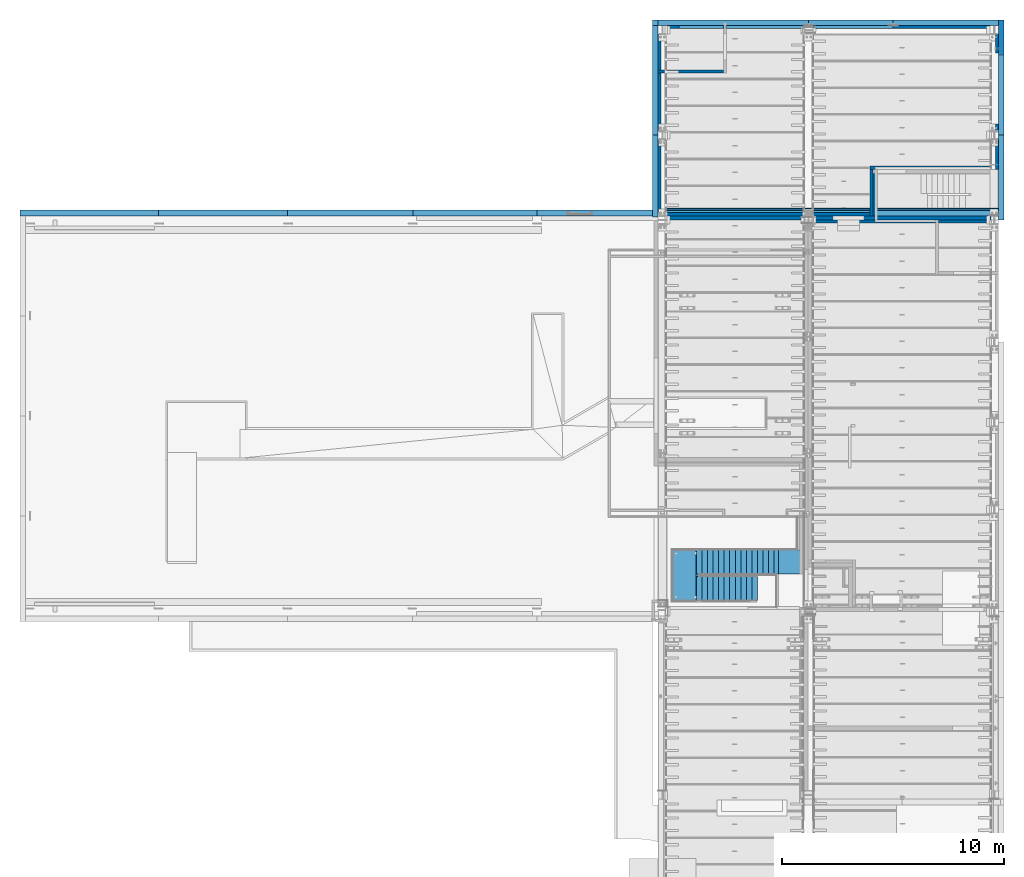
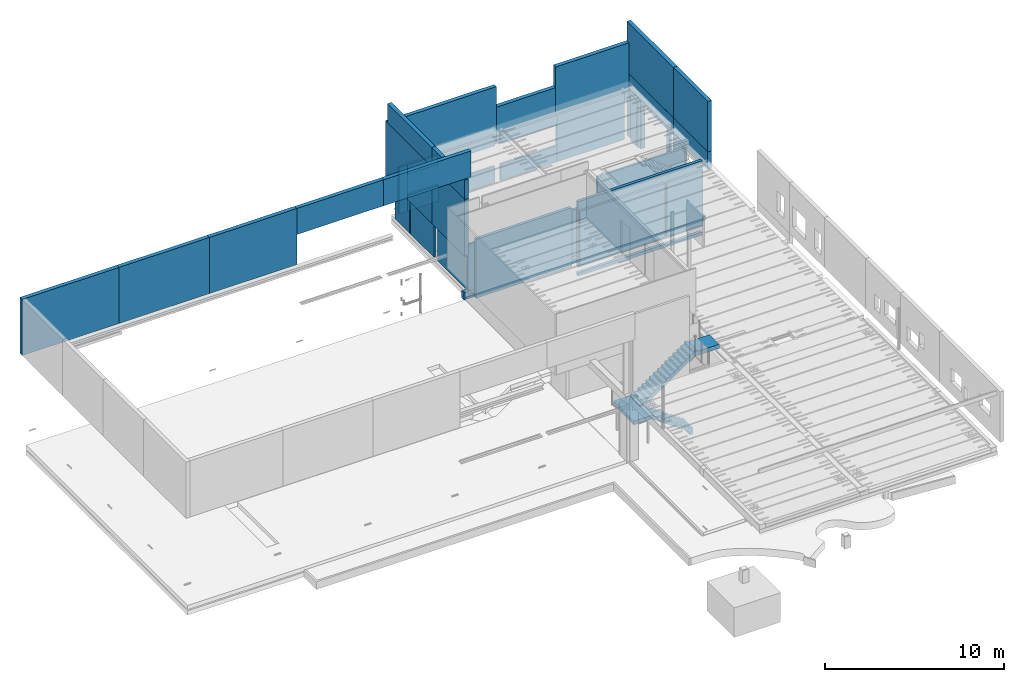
# One storey, part 70 of 230: 43 walls, 1 stair, 1 opening, 1 element without a shape of its own.
"""IFC4X3_ADD2 building model written with IfcOpenShell, lengths in millimetres."""

from ifc_helpers import new_model, si_unit, direction, frame, frame_2d, origin_with_axes, place, context, subcontext, project, spatial, polyline, rectangle, outline, extrude, clip, bounded_halfspace, source, transform, mapped, material, layer, layer_set, type_object, type_shapes, element, aggregate, save


model = new_model("IFC4X3_ADD2")

# Units and contexts
model_context = context("Model", 3, precision=1e-05, world=origin_with_axes(), true_north=direction((0.0, 1.0)))
body_context = subcontext(model_context, "Body", "Model", "MODEL_VIEW")
ifc_project = project(units=[si_unit("LENGTHUNIT", "METRE", prefix="MILLI"), si_unit("AREAUNIT", "SQUARE_METRE"), si_unit("VOLUMEUNIT", "CUBIC_METRE"), si_unit("PLANEANGLEUNIT", "RADIAN"), si_unit("TIMEUNIT", "SECOND"), si_unit("MASSUNIT", "GRAM")], contexts=[model_context])

# Site, building, storey
site_placement = place(None, origin_with_axes())
site = spatial("IfcSite", under=ifc_project, at=site_placement, Name="Site", CompositionType="ELEMENT")
building_placement = place(site_placement, origin_with_axes())
building = spatial("IfcBuilding", under=site, at=building_placement, Name="IFC Building Story")
storey_placement = place(building_placement, origin_with_axes())
storey = spatial("IfcBuildingStorey", under=building, at=storey_placement, Name="ETAGE 00 (0)", Elevation=0.0)

# Walls
ifc_material_1 = material(Name="BS_28_Ossature en béton armé - Eléments préfabriqués(panneau façade)")
ifc_layer_1 = layer(ifc_material_1, 90.0)
ifc_material_2 = material(Name="BS_21_Isolation des murs extérieurs")
ifc_layer_2 = layer(ifc_material_2, 100.0)
ifc_layer_3 = layer(ifc_material_1, 60.0)
ifc_layer_set_1 = layer_set([ifc_layer_1, ifc_layer_2, ifc_layer_3], Name="Mur de base:BS_21_WA_BTpréfab90-ISO100-BTlissépréfab60")
wall_type_1 = type_object("IfcWallType", Name="Mur de base:BS_21_WA_BTpréfab90-ISO100-BTlissépréfab60 250", PredefinedType="NOTDEFINED", material=ifc_layer_set_1)
wall_1_placement = place(storey_placement, origin_with_axes())
element("IfcWall", 1, at=wall_1_placement, inside=storey, type_object=wall_type_1, Name="Mur de base:BS_21_WA_BTpréfab90-ISO100-BTlissépréfab60", ObjectType="Mur de base:BS_21_WA_BTpréfab90-ISO100-BTlissépréfab60", context=body_context, shape_type="SweptSolid", body=[
    extrude(rectangle(XDim=5179.99999997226, YDim=250.0000000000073, at=frame_2d((0.0, 5.95523630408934e-12), x_axis=(0.0, 1.0))), frame((33076.6894781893, 24210.00000001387, 3000.0), z_axis=(0.0, 0.0, 1.0), x_axis=(1.0, 0.0, 0.0)), (0.0, 0.0, 1.0), 3869.0),
])
wall_2_placement = place(storey_placement, origin_with_axes())
element("IfcWall", 2, at=wall_2_placement, inside=storey, type_object=wall_type_1, Name="Mur de base:BS_21_WA_BTpréfab90-ISO100-BTlissépréfab60", ObjectType="Mur de base:BS_21_WA_BTpréfab90-ISO100-BTlissépréfab60", context=body_context, shape_type="SweptSolid", body=[
    extrude(rectangle(XDim=4929.999999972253, YDim=250.0000000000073, at=frame_2d((0.0, 5.95523630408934e-12), x_axis=(0.0, 1.0))), frame((33076.6894781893, 24085.00000001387, 6870.0), z_axis=(0.0, 0.0, 1.0), x_axis=(1.0, 0.0, 0.0)), (0.0, 0.0, 1.0), 1305.0),
])
wall_3_placement = place(storey_placement, origin_with_axes())
element("IfcWall", 3, at=wall_3_placement, inside=storey, type_object=wall_type_1, Name="Mur de base:BS_21_WA_BTpréfab90-ISO100-BTlissépréfab60", ObjectType="Mur de base:BS_21_WA_BTpréfab90-ISO100-BTlissépréfab60", context=body_context, shape_type="SweptSolid", body=[
    extrude(rectangle(XDim=3675.000000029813, YDim=250.0000000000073, at=frame_2d((0.0, 5.95523630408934e-12), x_axis=(0.0, 1.0))), frame((33076.6894781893, 19782.49999998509, 3000.0), z_axis=(0.0, 0.0, 1.0), x_axis=(1.0, 0.0, 0.0)), (0.0, 0.0, 1.0), 3869.0),
])
wall_4_placement = place(storey_placement, origin_with_axes())
element("IfcWall", 4, at=wall_4_placement, inside=storey, type_object=wall_type_1, Name="Mur de base:BS_21_WA_BTpréfab90-ISO100-BTlissépréfab60", ObjectType="Mur de base:BS_21_WA_BTpréfab90-ISO100-BTlissépréfab60", context=body_context, shape_type="SweptSolid", body=[
    extrude(rectangle(XDim=3675.000000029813, YDim=250.0000000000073, at=frame_2d((0.0, 5.95523630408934e-12), x_axis=(0.0, 1.0))), frame((33076.68947818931, 19782.49999998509, 6870.0), z_axis=(0.0, 0.0, 1.0), x_axis=(1.0, 0.0, 0.0)), (0.0, 0.0, 1.0), 1305.0),
])
wall_5_placement = place(storey_placement, origin_with_axes())
element("IfcWall", 5, at=wall_5_placement, inside=storey, type_object=wall_type_1, Name="Mur de base:BS_21_WA_BTpréfab90-ISO100-BTlissépréfab60", ObjectType="Mur de base:BS_21_WA_BTpréfab90-ISO100-BTlissépréfab60", context=body_context, shape_type="SweptSolid", body=[
    extrude(rectangle(XDim=5649.999999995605, YDim=250.0, at=frame_2d((0.0, 5.95523630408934e-12), x_axis=(1.0, 0.0))), frame((30576.6894781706, 18125.0000000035, 8220.0), z_axis=(0.0, 0.0, 1.0), x_axis=(1.0, 0.0, 0.0)), (0.0, 0.0, 1.0), 1770.0),
])
wall_6_placement = place(storey_placement, origin_with_axes())
element("IfcWall", 6, at=wall_6_placement, inside=storey, type_object=wall_type_1, Name="Mur de base:BS_21_WA_BTpréfab90-ISO100-BTlissépréfab60", ObjectType="Mur de base:BS_21_WA_BTpréfab90-ISO100-BTlissépréfab60", context=body_context, shape_type="SweptSolid", body=[
    extrude(rectangle(XDim=6235.4999999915, YDim=250.0, at=frame_2d((0.0, 5.95523630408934e-12), x_axis=(1.0, 0.0))), frame((7633.939478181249, 18125.0000000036, 6166.0), z_axis=(0.0, 0.0, 1.0), x_axis=(1.0, 0.0, 0.0)), (0.0, 0.0, 1.0), 3824.0),
])
wall_7_placement = place(storey_placement, origin_with_axes())
element("IfcWall", 7, at=wall_7_placement, inside=storey, type_object=wall_type_1, Name="Mur de base:BS_21_WA_BTpréfab90-ISO100-BTlissépréfab60", ObjectType="Mur de base:BS_21_WA_BTpréfab90-ISO100-BTlissépréfab60", context=body_context, shape_type="SweptSolid", body=[
    extrude(rectangle(XDim=5800.000000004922, YDim=249.9999999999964, at=frame_2d((0.0, 5.95523630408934e-12), x_axis=(1.0, 0.0))), frame((13651.68947817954, 18125.0000000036, 6166.0), z_axis=(0.0, 0.0, 1.0), x_axis=(1.0, 0.0, 0.0)), (0.0, 0.0, 1.0), 3824.0),
])
wall_8_placement = place(storey_placement, origin_with_axes())
element("IfcWall", 8, at=wall_8_placement, inside=storey, type_object=wall_type_1, Name="Mur de base:BS_21_WA_BTpréfab90-ISO100-BTlissépréfab60", ObjectType="Mur de base:BS_21_WA_BTpréfab90-ISO100-BTlissépréfab60", context=body_context, shape_type="SweptSolid", body=[
    extrude(rectangle(XDim=5624.999999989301, YDim=249.9999999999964, at=frame_2d((0.0, 5.95523630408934e-12), x_axis=(1.0, 0.0))), frame((19364.18947817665, 18125.0000000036, 6166.0), z_axis=(0.0, 0.0, 1.0), x_axis=(1.0, 0.0, 0.0)), (0.0, 0.0, 1.0), 3824.0),
])
wall_9_placement = place(storey_placement, origin_with_axes())
element("IfcWall", 9, at=wall_9_placement, inside=storey, type_object=wall_type_1, Name="Mur de base:BS_21_WA_BTpréfab90-ISO100-BTlissépréfab60", ObjectType="Mur de base:BS_21_WA_BTpréfab90-ISO100-BTlissépréfab60", context=body_context, shape_type="SweptSolid", body=[
    extrude(rectangle(XDim=5575.000000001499, YDim=250.0, at=frame_2d((0.0, 5.95523630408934e-12), x_axis=(1.0, 0.0))), frame((24964.18947817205, 18125.0000000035, 8220.0), z_axis=(0.0, 0.0, 1.0), x_axis=(1.0, 0.0, 0.0)), (0.0, 0.0, 1.0), 1770.0),
])

# Wall, opening
wall_10_placement = place(storey_placement, origin_with_axes())
wall_10 = element("IfcWall", 10, at=wall_10_placement, inside=storey, type_object=wall_type_1, Name="Mur de base:BS_21_WA_BTpréfab90-ISO100-BTlissépréfab60", ObjectType="Mur de base:BS_21_WA_BTpréfab90-ISO100-BTlissépréfab60", context=body_context, shape_type="SweptSolid", body=[
    extrude(rectangle(XDim=3805.000000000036, YDim=250.0000000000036, at=frame_2d((0.0, 5.95523630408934e-12), x_axis=(1.0, 0.0))), frame((41864.18947816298, 26675.0000000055, 3000.0), z_axis=(0.0, 0.0, 1.0), x_axis=(1.0, 0.0, 0.0)), (0.0, 0.0, 1.0), 2470.0),
])
opening_placement = place(wall_10_placement, frame((40851.689478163, 26550.0000000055, 5470.0), z_axis=(0.0, 1.0, 0.0), x_axis=(1.0, 0.0, 0.0)))
element("IfcOpeningElement", 11, at=opening_placement, cuts=wall_10, ObjectType="Opening", context=body_context, shape_type="SweptSolid", body=[
    extrude(outline(polyline([(-6710.0, 125.0), (6710.0, 125.0), (6710.0, -125.0), (-6710.0, -125.0), (-6710.0, 125.0)])), frame((0.0, -1400.0, 124.999999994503), z_axis=(0.0, 1.0, 0.0), x_axis=(1.0, 0.0, 0.0)), (0.0, 0.0, 1.0), 1400.0),
])

# Walls
wall_11_placement = place(storey_placement, origin_with_axes())
element("IfcWall", 12, at=wall_11_placement, inside=storey, type_object=wall_type_1, Name="Mur de base:BS_21_WA_BTpréfab90-ISO100-BTlissépréfab60", ObjectType="Mur de base:BS_21_WA_BTpréfab90-ISO100-BTlissépréfab60", context=body_context, shape_type="SweptSolid", body=[
    extrude(rectangle(XDim=3820.000000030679, YDim=249.9999999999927, at=frame_2d((0.0, 5.95523630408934e-12), x_axis=(0.0, 1.0))), frame((48626.68947815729, 19710.00000001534, 3545.0), z_axis=(0.0, 0.0, 1.0), x_axis=(1.0, 0.0, 0.0)), (0.0, 0.0, 1.0), 1199.0),
])
wall_12_placement = place(storey_placement, origin_with_axes())
element("IfcWall", 13, at=wall_12_placement, inside=storey, type_object=wall_type_1, Name="Mur de base:BS_21_WA_BTpréfab90-ISO100-BTlissépréfab60", ObjectType="Mur de base:BS_21_WA_BTpréfab90-ISO100-BTlissépréfab60", context=body_context, shape_type="SweptSolid", body=[
    extrude(rectangle(XDim=3820.000000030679, YDim=249.9999999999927, at=frame_2d((0.0, 5.95523630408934e-12), x_axis=(0.0, 1.0))), frame((48626.68947815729, 19710.00000001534, 4745.0), z_axis=(0.0, 0.0, 1.0), x_axis=(1.0, 0.0, 0.0)), (0.0, 0.0, 1.0), 3430.0),
])
wall_13_placement = place(storey_placement, origin_with_axes())
element("IfcWall", 14, at=wall_13_placement, inside=storey, type_object=wall_type_1, Name="Mur de base:BS_21_WA_BTpréfab90-ISO100-BTlissépréfab60", ObjectType="Mur de base:BS_21_WA_BTpréfab90-ISO100-BTlissépréfab60", context=body_context, shape_type="SweptSolid", body=[
    extrude(rectangle(XDim=1569.999999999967, YDim=250.0000000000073, at=frame_2d((0.0, 5.95523630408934e-12), x_axis=(0.0, 1.0))), frame((48626.68947815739, 26014.99999999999, 431.0), z_axis=(0.0, 0.0, 1.0), x_axis=(1.0, 0.0, 0.0)), (0.0, 0.0, 1.0), 3113.0),
])
wall_14_placement = place(storey_placement, origin_with_axes())
element("IfcWall", 15, at=wall_14_placement, inside=storey, type_object=wall_type_1, Name="Mur de base:BS_21_WA_BTpréfab90-ISO100-BTlissépréfab60", ObjectType="Mur de base:BS_21_WA_BTpréfab90-ISO100-BTlissépréfab60", context=body_context, shape_type="SweptSolid", body=[
    extrude(rectangle(XDim=5179.999999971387, YDim=249.9999999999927, at=frame_2d((0.0, 5.95523630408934e-12), x_axis=(0.0, 1.0))), frame((48626.68947815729, 24209.99999998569, 4745.0), z_axis=(0.0, 0.0, 1.0), x_axis=(1.0, 0.0, 0.0)), (0.0, 0.0, 1.0), 3430.0),
])
wall_15_placement = place(storey_placement, origin_with_axes())
element("IfcWall", 16, at=wall_15_placement, inside=storey, type_object=wall_type_1, Name="Mur de base:BS_21_WA_BTpréfab90-ISO100-BTlissépréfab60", ObjectType="Mur de base:BS_21_WA_BTpréfab90-ISO100-BTlissépréfab60", context=body_context, shape_type="SweptSolid", body=[
    extrude(rectangle(XDim=5179.999999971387, YDim=250.0, at=frame_2d((0.0, 5.95523630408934e-12), x_axis=(0.0, 1.0))), frame((48626.6894781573, 24209.99999998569, 3545.0), z_axis=(0.0, 0.0, 1.0), x_axis=(1.0, 0.0, 0.0)), (0.0, 0.0, 1.0), 1199.0),
])
wall_16_placement = place(storey_placement, origin_with_axes())
element("IfcWall", 17, at=wall_16_placement, inside=storey, type_object=wall_type_1, Name="Mur de base:BS_21_WA_BTpréfab90-ISO100-BTlissépréfab60", ObjectType="Mur de base:BS_21_WA_BTpréfab90-ISO100-BTlissépréfab60", context=body_context, shape_type="SweptSolid", body=[
    extrude(rectangle(XDim=4734.999999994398, YDim=250.0000000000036, at=frame_2d((0.0, 5.95523630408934e-12), x_axis=(1.0, 0.0))), frame((46134.18947816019, 26675.0000000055, 3000.0), z_axis=(0.0, 0.0, 1.0), x_axis=(1.0, 0.0, 0.0)), (0.0, 0.0, 1.0), 3869.0),
])
wall_17_placement = place(storey_placement, origin_with_axes())
element("IfcWall", 18, at=wall_17_placement, inside=storey, type_object=wall_type_1, Name="Mur de base:BS_21_WA_BTpréfab90-ISO100-BTlissépréfab60", ObjectType="Mur de base:BS_21_WA_BTpréfab90-ISO100-BTlissépréfab60", context=body_context, shape_type="SweptSolid", body=[
    extrude(rectangle(XDim=6759.999999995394, YDim=250.0000000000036, at=frame_2d((0.0, 5.95523630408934e-12), x_axis=(1.0, 0.0))), frame((36581.68947816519, 26675.0000000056, 3000.0), z_axis=(0.0, 0.0, 1.0), x_axis=(1.0, 0.0, 0.0)), (0.0, 0.0, 1.0), 3869.0),
])
ifc_material_3 = material(Name="BS_28_Ossature en béton armé - Eléments coulé sur place")
wall_type_2 = type_object("IfcWallType", Name="Mur de base:BS_28_WA_BTcoulé250", PredefinedType="NOTDEFINED", material=ifc_material_3)
wall_18_placement = place(storey_placement, origin_with_axes())
element("IfcWall", 19, at=wall_18_placement, inside=storey, type_object=wall_type_2, Name="Mur de base:BS_28_WA_BTcoulé250", ObjectType="Mur de base:BS_28_WA_BTcoulé250", context=body_context, shape_type="Clipping", body=[
    clip(extrude(outline(polyline([(-7787.499999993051, 125.0), (7787.499999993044, 125.0), (7787.499999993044, -125.0), (-7787.499999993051, -125.0), (-7787.499999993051, 125.0)])), frame((40714.18947816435, 18125.0000000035, 0.0), z_axis=(0.0, 0.0, 1.0), x_axis=(1.0, 0.0, 0.0)), (0.0, 0.0, 1.0), 500.0), bounded_halfspace(frame((0.0, 0.0, 300.0), z_axis=(0.0, 0.0, 1.0), x_axis=(1.0, 0.0, 0.0)), False, frame((40714.18947816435, 18125.0000000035, 0.0), z_axis=(0.0, 0.0, 1.0), x_axis=(1.0, 0.0, 0.0)), polyline([(7787.499999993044, 125.0), (-7512.499999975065, 125.0), (-7512.499999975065, -125.0), (7787.499999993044, -125.0), (7787.499999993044, 125.0)]))),
])
ifc_material_4 = material(Name="BS_13_Isolation sur sols XPS")
wall_type_3 = type_object("IfcWallType", Name="Mur de base:BS_13_WA_XPS80", PredefinedType="NOTDEFINED", material=ifc_material_4)
wall_19_placement = place(storey_placement, origin_with_axes())
element("IfcWall", 20, at=wall_19_placement, inside=storey, type_object=wall_type_3, Name="Mur de base:BS_13_WA_XPS80", ObjectType="Mur de base:BS_13_WA_XPS80", context=body_context, shape_type="SweptSolid", body=[
    extrude(rectangle(XDim=15299.9999999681, YDim=80.0, at=frame_2d((0.0, 5.95523630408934e-12), x_axis=(1.0, 0.0))), frame((40851.68947817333, 18290.0, -200.0), z_axis=(0.0, 0.0, 1.0), x_axis=(1.0, 0.0, 0.0)), (0.0, 0.0, 1.0), 120.0),
])
ifc_material_5 = material(Name="BS_22_Maçonnerie intérieure - Type4 -  en béton")
wall_type_4 = type_object("IfcWallType", Name="Mur de base_BS_22_WA_BBTlourd190_1", PredefinedType="NOTDEFINED")
shared_shape_1 = source(origin_with_axes(), body_context, "Body", "SweptSolid", [
    extrude(rectangle(XDim=8001.49652183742, YDim=190.0, at=frame_2d((0.0, 5.95523630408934e-12), x_axis=(1.0, 0.0))), frame((4000.748260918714, 0.0, 0.0), z_axis=(0.0, 0.0, 1.0), x_axis=(1.0, 0.0, 0.0)), (0.0, 0.0, 1.0), 220.0),
    extrude(rectangle(XDim=8001.49652183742, YDim=190.0, at=frame_2d((0.0, 5.95523630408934e-12), x_axis=(1.0, 0.0))), frame((4000.748260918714, 0.0, 600.0), z_axis=(0.0, 0.0, 1.0), x_axis=(1.0, 0.0, 0.0)), (0.0, 0.0, 1.0), 4470.0),
])
type_shapes(wall_type_4, [shared_shape_1])
wall_20_placement = place(storey_placement, frame((40161.6894781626, 17905.0000000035, -800.0), z_axis=(0.0, 0.0, 1.0), x_axis=(1.0, 0.0, 0.0)))
element("IfcWall", 21, at=wall_20_placement, inside=storey, type_object=wall_type_4, material=ifc_material_5, Name="Mur de base:BS_22_WA_BBTlourd190", ObjectType="Mur de base:BS_22_WA_BBTlourd190", context=body_context, shape_type="MappedRepresentation", body=[
    mapped(shared_shape_1, transform((0.0, 0.0, 0.0))),
])
wall_type_5 = type_object("IfcWallType", Name="Mur de base:BS_22_WA_BBTlourd190", PredefinedType="NOTDEFINED", material=ifc_material_5)
wall_21_placement = place(storey_placement, origin_with_axes())
element("IfcWall", 22, at=wall_21_placement, inside=storey, type_object=wall_type_5, Name="Mur de base:BS_22_WA_BBTlourd190", ObjectType="Mur de base:BS_22_WA_BBTlourd190", context=body_context, shape_type="SweptSolid", body=[
    extrude(rectangle(XDim=1900.00000001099, YDim=189.9999999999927, at=frame_2d((0.0, 5.95523630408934e-12), x_axis=(0.0, 1.0))), frame((42956.6894781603, 18949.99999999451, 500.0), z_axis=(0.0, 0.0, 1.0), x_axis=(1.0, 0.0, 0.0)), (0.0, 0.0, 1.0), 3500.0),
])
wall_22_placement = place(storey_placement, origin_with_axes())
element("IfcWall", 23, at=wall_22_placement, inside=storey, type_object=wall_type_5, Name="Mur de base:BS_22_WA_BBTlourd190", ObjectType="Mur de base:BS_22_WA_BBTlourd190", context=body_context, shape_type="SweptSolid", body=[
    extrude(rectangle(XDim=6159.999999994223, YDim=190.0, at=frame_2d((0.0, 5.95523630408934e-12), x_axis=(1.0, 0.0))), frame((36681.68947816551, 17905.0000000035, 0.0), z_axis=(0.0, 0.0, 1.0), x_axis=(1.0, 0.0, 0.0)), (0.0, 0.0, 1.0), 4000.0),
])
ifc_material_6 = material(Name="BS_42_Revêtement mural en plaques - type A (gyproc)")
ifc_layer_4 = layer(ifc_material_6, 12.5)
ifc_material_7 = material(Name="BS_42_Panneau OSB")
ifc_layer_5 = layer(ifc_material_7, 18.0)
ifc_material_8 = material(Name="BS_42_ContreCloison-Laine minérale")
ifc_layer_6 = layer(ifc_material_8, 75.0)
ifc_layer_7 = layer(ifc_material_7, 18.0)
ifc_layer_8 = layer(ifc_material_6, 12.5)
ifc_layer_set_2 = layer_set([ifc_layer_4, ifc_layer_5, ifc_layer_6, ifc_layer_7, ifc_layer_8], Name="Mur de base:BS_22_WA_C1")
wall_type_6 = type_object("IfcWallType", Name="Mur de base:BS_22_WA_C1 136", PredefinedType="NOTDEFINED", material=ifc_layer_set_2)
wall_23_placement = place(storey_placement, origin_with_axes())
element("IfcWall", 24, at=wall_23_placement, inside=storey, type_object=wall_type_6, Name="Mur de base:BS_22_WA_C1", ObjectType="Mur de base:BS_22_WA_C1", context=body_context, shape_type="SweptSolid", body=[
    extrude(rectangle(XDim=2929.500000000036, YDim=136.0, at=frame_2d((0.0, 5.95523630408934e-12), x_axis=(1.0, 0.0))), frame((34666.43947818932, 24482.5000000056, 500.0), z_axis=(0.0, 0.0, 1.0), x_axis=(1.0, 0.0, 0.0)), (0.0, 0.0, 1.0), 3500.0),
])
ifc_material_9 = material(Name="BS_00_Vide d'air")
ifc_layer_9 = layer(ifc_material_9, 10.0)
ifc_layer_10 = layer(ifc_material_8, 100.0)
ifc_layer_11 = layer(ifc_material_7, 18.0)
ifc_layer_12 = layer(ifc_material_6, 12.5)
ifc_layer_set_3 = layer_set([ifc_layer_9, ifc_layer_10, ifc_layer_11, ifc_layer_12], Name="Mur de base:BS_22_WA_ContreCloison acoustique")
wall_type_7 = type_object("IfcWallType", Name="Mur de base:BS_22_WA_ContreCloison acoustique 140.5", PredefinedType="NOTDEFINED", material=ifc_layer_set_3)
wall_24_placement = place(storey_placement, origin_with_axes())
element("IfcWall", 25, at=wall_24_placement, inside=storey, type_object=wall_type_7, Name="Mur de base:BS_22_WA_ContreCloison acoustique", ObjectType="Mur de base:BS_22_WA_ContreCloison acoustique", context=body_context, shape_type="SweptSolid", body=[
    extrude(rectangle(XDim=3608.502504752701, YDim=140.5, at=frame_2d((0.0, 5.95523630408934e-12), x_axis=(1.0, 0.0))), frame((41965.43997307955, 26479.7500000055, 500.0), z_axis=(0.0, 0.0, 1.0), x_axis=(1.0, 0.0, 0.0)), (0.0, 0.0, 1.0), 1100.0),
])
wall_25_placement = place(storey_placement, origin_with_axes())
element("IfcWall", 26, at=wall_25_placement, inside=storey, type_object=wall_type_7, Name="Mur de base:BS_22_WA_ContreCloison acoustique", ObjectType="Mur de base:BS_22_WA_ContreCloison acoustique", context=body_context, shape_type="SweptSolid", body=[
    extrude(rectangle(XDim=4346.497647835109, YDim=140.4999999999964, at=frame_2d((0.0, 5.95523630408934e-12), x_axis=(1.0, 0.0))), frame((45942.94004937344, 26479.7500000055, 500.0), z_axis=(0.0, 0.0, 1.0), x_axis=(1.0, 0.0, 0.0)), (0.0, 0.0, 1.0), 3175.0),
])
wall_26_placement = place(storey_placement, origin_with_axes())
element("IfcWall", 27, at=wall_26_placement, inside=storey, type_object=wall_type_7, Name="Mur de base:BS_22_WA_ContreCloison acoustique", ObjectType="Mur de base:BS_22_WA_ContreCloison acoustique", context=body_context, shape_type="SweptSolid", body=[
    extrude(rectangle(XDim=646.7353678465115, YDim=140.4999999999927, at=frame_2d((0.0, 5.95523630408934e-12), x_axis=(0.0, 1.0))), frame((48431.4394781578, 25836.63127847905, 500.0), z_axis=(0.0, 0.0, 1.0), x_axis=(1.0, 0.0, 0.0)), (0.0, 0.0, 1.0), 3175.0),
])
wall_27_placement = place(storey_placement, origin_with_axes())
element("IfcWall", 28, at=wall_27_placement, inside=storey, type_object=wall_type_7, Name="Mur de base:BS_22_WA_ContreCloison acoustique", ObjectType="Mur de base:BS_22_WA_ContreCloison acoustique", context=body_context, shape_type="SweptSolid", body=[
    extrude(rectangle(XDim=197.7635945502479, YDim=140.4999999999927, at=frame_2d((0.0, 5.95523630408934e-12), x_axis=(0.0, 1.0))), frame((48431.4394781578, 25408.88179728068, 500.0), z_axis=(0.0, 0.0, 1.0), x_axis=(1.0, 0.0, 0.0)), (0.0, 0.0, 1.0), 3175.0),
])
wall_28_placement = place(storey_placement, origin_with_axes())
element("IfcWall", 29, at=wall_28_placement, inside=storey, type_object=wall_type_7, Name="Mur de base:BS_22_WA_ContreCloison acoustique", ObjectType="Mur de base:BS_22_WA_ContreCloison acoustique", context=body_context, shape_type="SweptSolid", body=[
    extrude(rectangle(XDim=3608.502504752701, YDim=140.5, at=frame_2d((0.0, 5.95523630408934e-12), x_axis=(1.0, 0.0))), frame((41965.43997307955, 26479.7500000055, 3000.0), z_axis=(0.0, 0.0, 1.0), x_axis=(1.0, 0.0, 0.0)), (0.0, 0.0, 1.0), 675.0),
])
wall_29_placement = place(storey_placement, origin_with_axes())
element("IfcWall", 30, at=wall_29_placement, inside=storey, type_object=wall_type_7, Name="Mur de base:BS_22_WA_ContreCloison acoustique", ObjectType="Mur de base:BS_22_WA_ContreCloison acoustique", context=body_context, shape_type="SweptSolid", body=[
    extrude(rectangle(XDim=315.000389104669, YDim=140.4999999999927, at=frame_2d((0.0, 5.95523630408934e-12), x_axis=(0.0, 1.0))), frame((48431.4394781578, 21972.49980544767, 500.0), z_axis=(0.0, 0.0, 1.0), x_axis=(1.0, 0.0, 0.0)), (0.0, 0.0, 1.0), 3175.0),
])
wall_30_placement = place(storey_placement, origin_with_axes())
element("IfcWall", 31, at=wall_30_placement, inside=storey, type_object=wall_type_7, Name="Mur de base:BS_22_WA_ContreCloison acoustique", ObjectType="Mur de base:BS_22_WA_ContreCloison acoustique", context=body_context, shape_type="SweptSolid", body=[
    extrude(rectangle(XDim=1334.999610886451, YDim=140.4999999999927, at=frame_2d((0.0, 5.95523630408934e-12), x_axis=(0.0, 1.0))), frame((48431.43947815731, 20757.49980545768, 500.0), z_axis=(0.0, 0.0, 1.0), x_axis=(1.0, 0.0, 0.0)), (0.0, 0.0, 1.0), 3175.0),
])
wall_31_placement = place(storey_placement, origin_with_axes())
element("IfcWall", 32, at=wall_31_placement, inside=storey, type_object=wall_type_7, Name="Mur de base:BS_22_WA_ContreCloison acoustique", ObjectType="Mur de base:BS_22_WA_ContreCloison acoustique", context=body_context, shape_type="SweptSolid", body=[
    extrude(rectangle(XDim=5639.99999999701, YDim=140.5, at=frame_2d((0.0, 5.95523630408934e-12), x_axis=(1.0, 0.0))), frame((45541.18947815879, 20160.2500000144, 500.0), z_axis=(0.0, 0.0, 1.0), x_axis=(1.0, 0.0, 0.0)), (0.0, 0.0, 1.0), 3175.0),
])
wall_32_placement = place(storey_placement, origin_with_axes())
element("IfcWall", 33, at=wall_32_placement, inside=storey, type_object=wall_type_7, Name="Mur de base:BS_22_WA_ContreCloison acoustique", ObjectType="Mur de base:BS_22_WA_ContreCloison acoustique", context=body_context, shape_type="SweptSolid", body=[
    extrude(rectangle(XDim=2090.000000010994, YDim=140.4999999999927, at=frame_2d((0.0, 5.95523630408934e-12), x_axis=(0.0, 1.0))), frame((42791.4394781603, 19044.99999999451, 500.0), z_axis=(0.0, 0.0, 1.0), x_axis=(1.0, 0.0, 0.0)), (0.0, 0.0, 1.0), 3175.0),
])
wall_33_placement = place(storey_placement, origin_with_axes())
element("IfcWall", 34, at=wall_33_placement, inside=storey, type_object=wall_type_7, Name="Mur de base:BS_22_WA_ContreCloison acoustique", ObjectType="Mur de base:BS_22_WA_ContreCloison acoustique", context=body_context, shape_type="SweptSolid", body=[
    extrude(rectangle(XDim=9519.4999999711, YDim=140.5000000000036, at=frame_2d((0.0, 5.95523630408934e-12), x_axis=(1.0, 0.0))), frame((37961.43947817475, 18070.2500000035, 500.0), z_axis=(0.0, 0.0, 1.0), x_axis=(1.0, 0.0, 0.0)), (0.0, 0.0, 1.0), 3175.0),
])
wall_34_placement = place(storey_placement, origin_with_axes())
element("IfcWall", 35, at=wall_34_placement, inside=storey, type_object=wall_type_7, Name="Mur de base:BS_22_WA_ContreCloison acoustique", ObjectType="Mur de base:BS_22_WA_ContreCloison acoustique", context=body_context, shape_type="SweptSolid", body=[
    extrude(rectangle(XDim=3284.49961089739, YDim=140.5000000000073, at=frame_2d((0.0, 5.95523630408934e-12), x_axis=(0.0, 1.0))), frame((33271.9394781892, 19782.74980545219, 500.0), z_axis=(0.0, 0.0, 1.0), x_axis=(1.0, 0.0, 0.0)), (0.0, 0.0, 1.0), 3175.0),
])
wall_35_placement = place(storey_placement, origin_with_axes())
element("IfcWall", 36, at=wall_35_placement, inside=storey, type_object=wall_type_7, Name="Mur de base:BS_22_WA_ContreCloison acoustique", ObjectType="Mur de base:BS_22_WA_ContreCloison acoustique", context=body_context, shape_type="SweptSolid", body=[
    extrude(rectangle(XDim=2599.50038910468, YDim=140.5000000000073, at=frame_2d((0.0, 5.95523630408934e-12), x_axis=(0.0, 1.0))), frame((33271.9394781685, 23114.74980545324, 500.0), z_axis=(0.0, 0.0, 1.0), x_axis=(1.0, 0.0, 0.0)), (0.0, 0.0, 1.0), 3175.0),
])
wall_36_placement = place(storey_placement, origin_with_axes())
element("IfcWall", 37, at=wall_36_placement, inside=storey, type_object=wall_type_7, Name="Mur de base:BS_22_WA_ContreCloison acoustique", ObjectType="Mur de base:BS_22_WA_ContreCloison acoustique", context=body_context, shape_type="SweptSolid", body=[
    extrude(rectangle(XDim=5465.000478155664, YDim=140.5, at=frame_2d((0.0, 5.95523630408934e-12), x_axis=(1.0, 0.0))), frame((42943.68923907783, 17739.7500000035, 0.0), z_axis=(0.0, 0.0, 1.0), x_axis=(1.0, 0.0, 0.0)), (0.0, 0.0, 1.0), 3675.0),
])
wall_37_placement = place(storey_placement, origin_with_axes())
element("IfcWall", 38, at=wall_37_placement, inside=storey, type_object=wall_type_7, Name="Mur de base:BS_22_WA_ContreCloison acoustique", ObjectType="Mur de base:BS_22_WA_ContreCloison acoustique", context=body_context, shape_type="SweptSolid", body=[
    extrude(rectangle(XDim=2303.999158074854, YDim=140.5, at=frame_2d((0.0, 5.95523630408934e-12), x_axis=(1.0, 0.0))), frame((46964.18905719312, 17739.7500000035, 0.0), z_axis=(0.0, 0.0, 1.0), x_axis=(1.0, 0.0, 0.0)), (0.0, 0.0, 1.0), 3675.0),
])
wall_38_placement = place(storey_placement, origin_with_axes())
element("IfcWall", 39, at=wall_38_placement, inside=storey, type_object=wall_type_7, Name="Mur de base:BS_22_WA_ContreCloison acoustique", ObjectType="Mur de base:BS_22_WA_ContreCloison acoustique", context=body_context, shape_type="SweptSolid", body=[
    extrude(rectangle(XDim=3534.499242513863, YDim=140.5, at=frame_2d((0.0, 5.95523630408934e-12), x_axis=(1.0, 0.0))), frame((38003.93909944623, 26479.7500000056, 500.0), z_axis=(0.0, 0.0, 1.0), x_axis=(1.0, 0.0, 0.0)), (0.0, 0.0, 1.0), 1100.0),
])
wall_39_placement = place(storey_placement, origin_with_axes())
element("IfcWall", 40, at=wall_39_placement, inside=storey, type_object=wall_type_7, Name="Mur de base:BS_22_WA_ContreCloison acoustique", ObjectType="Mur de base:BS_22_WA_ContreCloison acoustique", context=body_context, shape_type="SweptSolid", body=[
    extrude(rectangle(XDim=3503.999242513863, YDim=140.5, at=frame_2d((0.0, 5.95523630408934e-12), x_axis=(1.0, 0.0))), frame((38019.18909944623, 26479.7500000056, 3000.0), z_axis=(0.0, 0.0, 1.0), x_axis=(1.0, 0.0, 0.0)), (0.0, 0.0, 1.0), 675.0),
])
wall_40_placement = place(storey_placement, origin_with_axes())
element("IfcWall", 41, at=wall_40_placement, inside=storey, type_object=wall_type_7, Name="Mur de base:BS_22_WA_ContreCloison acoustique", ObjectType="Mur de base:BS_22_WA_ContreCloison acoustique", context=body_context, shape_type="SweptSolid", body=[
    extrude(rectangle(XDim=545.5011307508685, YDim=140.5000000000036, at=frame_2d((0.0, 5.95523630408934e-12), x_axis=(1.0, 0.0))), frame((33868.93891278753, 26479.7500000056, 500.0), z_axis=(0.0, 0.0, 1.0), x_axis=(1.0, 0.0, 0.0)), (0.0, 0.0, 1.0), 3175.0),
])
wall_41_placement = place(storey_placement, origin_with_axes())
element("IfcWall", 42, at=wall_41_placement, inside=storey, type_object=wall_type_7, Name="Mur de base:BS_22_WA_ContreCloison acoustique", ObjectType="Mur de base:BS_22_WA_ContreCloison acoustique", context=body_context, shape_type="SweptSolid", body=[
    extrude(rectangle(XDim=1609.498962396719, YDim=140.5, at=frame_2d((0.0, 5.95523630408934e-12), x_axis=(0.0, 1.0))), frame((33271.9394781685, 25355.24948120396, 500.0), z_axis=(0.0, 0.0, 1.0), x_axis=(1.0, 0.0, 0.0)), (0.0, 0.0, 1.0), 3175.0),
])
wall_42_placement = place(storey_placement, origin_with_axes())
element("IfcWall", 43, at=wall_42_placement, inside=storey, type_object=wall_type_7, Name="Mur de base:BS_22_WA_ContreCloison acoustique", ObjectType="Mur de base:BS_22_WA_ContreCloison acoustique", context=body_context, shape_type="SweptSolid", body=[
    extrude(rectangle(XDim=2020.000000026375, YDim=140.5, at=frame_2d((0.0, 5.95523630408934e-12), x_axis=(1.0, 0.0))), frame((35151.68947817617, 26479.7500000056, 500.0), z_axis=(0.0, 0.0, 1.0), x_axis=(1.0, 0.0, 0.0)), (0.0, 0.0, 1.0), 1100.0),
])
wall_43_placement = place(storey_placement, origin_with_axes())
element("IfcWall", 44, at=wall_43_placement, inside=storey, type_object=wall_type_7, Name="Mur de base:BS_22_WA_ContreCloison acoustique", ObjectType="Mur de base:BS_22_WA_ContreCloison acoustique", context=body_context, shape_type="SweptSolid", body=[
    extrude(rectangle(XDim=1989.500000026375, YDim=140.5000000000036, at=frame_2d((0.0, 5.95523630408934e-12), x_axis=(1.0, 0.0))), frame((35136.43947817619, 26479.7500000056, 3000.0), z_axis=(0.0, 0.0, 1.0), x_axis=(1.0, 0.0, 0.0)), (0.0, 0.0, 1.0), 675.0),
])

# Stairs
stair_1_placement = place(storey_placement, origin_with_axes())
stair_1 = element("IfcStair", 45, at=stair_1_placement, inside=storey, Name="Escalier BS_24_STR_Escalier", ObjectType="Escalier BS_24_STR_Escalier", PredefinedType="NOTDEFINED")
ifc_material_10 = material(Name="BS_28_Ossature en béton armé - Eléments préfabriqués")
shared_shape_2 = source(origin_with_axes(), body_context, "Body", "SweptSolid", [
    extrude(outline(polyline([(315.0, 3.333333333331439), (315.0, -126.6666666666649), (-730.0, -126.6666666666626), (-730.0, 123.3333333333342), (415.0, 123.333333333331), (415.0, 3.333333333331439), (315.0, 3.333333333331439)])), frame((34596.6894781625, 699.9999637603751, 1793.33333333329), z_axis=(0.0, 1.0, 0.0), x_axis=(1.0, 0.0, 0.0)), (0.0, 0.0, 1.0), 2270.0),
    extrude(outline(polyline([(-1700.317142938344, 1180.789473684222), (-1950.317142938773, 1180.789473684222), (-1950.317142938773, 1300.789473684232), (-1850.317142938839, 1300.789473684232), (-1850.317142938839, 1430.789473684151), (-1743.577141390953, 1430.789473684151), (1584.994287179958, -899.2105263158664), (3184.682857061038, -899.2105263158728), (3184.682857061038, -1169.210526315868), (1749.682857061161, -1169.210526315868), (1749.682857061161, -1269.210526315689), (1549.682857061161, -1269.210526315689), (1549.682857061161, -1094.210526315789), (1299.682857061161, -1094.210526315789), (1299.682857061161, -919.2105263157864), (1049.682857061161, -919.2105263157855), (1049.682857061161, -744.2105263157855), (799.6828570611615, -744.2105263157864), (799.6828570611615, -569.2105263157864), (549.682857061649, -569.2105263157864), (549.682857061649, -394.2105263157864), (299.682857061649, -394.2105263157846), (299.6828570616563, -219.2105263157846), (49.68285706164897, -219.2105263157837), (49.68285706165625, -44.21052631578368), (-200.317142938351, -44.21052631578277), (-200.3171429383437, 130.7894736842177), (-450.317142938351, 130.7894736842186), (-450.3171429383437, 305.7894736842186), (-700.3171429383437, 305.789473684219), (-700.3171429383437, 480.789473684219), (-950.3171429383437, 480.7894736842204), (-950.3171429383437, 655.7894736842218), (-1200.317142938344, 655.7894736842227), (-1200.317142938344, 830.7894736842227), (-1450.317142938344, 830.7894736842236), (-1450.317142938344, 1005.789473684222), (-1700.317142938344, 1005.789473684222), (-1700.317142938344, 1180.789473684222)])), frame((36872.00662110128, 1884.999963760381, 3100.789473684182), z_axis=(0.0, 1.0, 0.0), x_axis=(1.0, 0.0, 0.0)), (0.0, 0.0, 1.0), 1085.0),
    extrude(outline(polyline([(1382.142857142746, 817.1001189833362), (1132.142857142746, 817.1001189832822), (1132.142857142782, 642.1001189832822), (882.1428571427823, 642.1001189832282), (882.1428571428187, 467.1001189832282), (632.1428571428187, 467.1001189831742), (632.1428571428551, 292.1001189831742), (382.1428571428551, 292.1001189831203), (382.1428571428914, 117.1001189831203), (132.1428571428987, 117.1001189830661), (132.1428571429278, -57.89988101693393), (-117.8571428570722, -57.89988101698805), (-117.8571428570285, -232.8998810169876), (-367.8571428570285, -232.8998810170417), (-367.8571428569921, -407.8998810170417), (-617.8571428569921, -407.8998810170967), (-617.8571428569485, -582.8998810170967), (-867.8571428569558, -582.8998810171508), (-867.8571428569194, -757.8998810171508), (-1117.857142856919, -757.8998810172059), (-1117.857142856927, -932.8998810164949), (-1367.857142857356, -932.8998810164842), (-1367.857142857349, -812.8998810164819), (-1267.857142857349, -812.8998810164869), (-1267.857142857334, -679.801546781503), (1182.142857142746, 1035.198453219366), (1182.142857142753, 1272.100118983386), (1382.142857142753, 1272.100118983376), (1382.142857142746, 817.1001189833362)])), frame((36289.54662101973, 699.9999637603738, 987.1001189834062), z_axis=(0.0, 1.0, 0.0), x_axis=(1.0, 0.0, 0.0)), (0.0, 0.0, 1.0), 1085.0),
])
stair_2_placement = place(stair_1_placement, origin_with_axes())
stair_2 = element("IfcStair", 46, at=stair_2_placement, material=ifc_material_10, Name="Escalier accueil:BS_24_STR_Escalier accueil", ObjectType="Escalier accueil:BS_24_STR_Escalier accueil", PredefinedType="NOTDEFINED", context=body_context, shape_type="MappedRepresentation", body=[
    mapped(shared_shape_2, transform((0.0, 0.0, 0.0))),
])
aggregate(stair_1, [stair_2])

save(model, "model.ifc")
